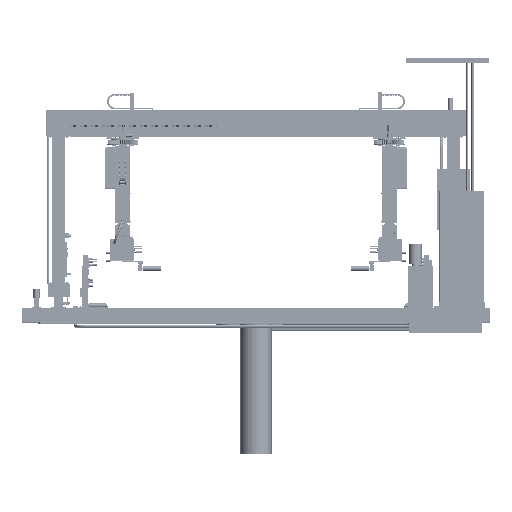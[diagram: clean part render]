
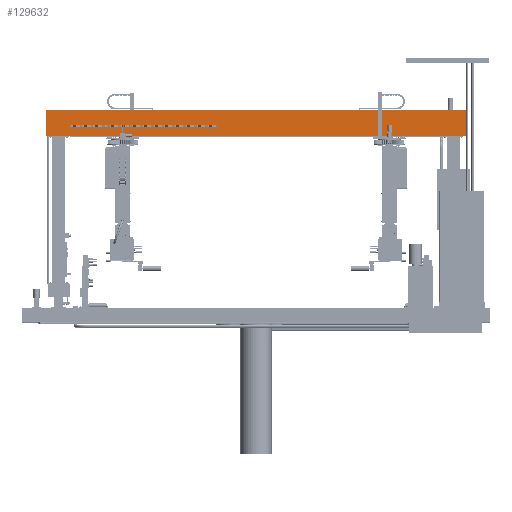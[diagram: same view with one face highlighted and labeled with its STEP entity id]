
A CAD part, top view. The second image highlights one B-rep face of the part: STEP entity #129632.
In plain terms, the highlighted planar face has unit normal (0, 0, 1).
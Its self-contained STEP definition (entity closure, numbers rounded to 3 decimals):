
#128953 = VERTEX_POINT('',#128954);
#128954 = CARTESIAN_POINT('',(-3770.,3100.,170.));
#128961 = PLANE('',#128962);
#128962 = AXIS2_PLACEMENT_3D('',#128963,#128964,#128965);
#128963 = CARTESIAN_POINT('',(-3770.,3100.,-170.));
#128964 = DIRECTION('',(1.,0.,0.));
#128965 = DIRECTION('',(0.,0.,1.));
#128973 = PLANE('',#128974);
#128974 = AXIS2_PLACEMENT_3D('',#128975,#128976,#128977);
#128975 = CARTESIAN_POINT('',(-3770.,3100.,-170.));
#128976 = DIRECTION('',(0.,1.,0.));
#128977 = DIRECTION('',(0.,0.,1.));
#129014 = VERTEX_POINT('',#129015);
#129015 = CARTESIAN_POINT('',(-3770.,3560.,170.));
#129029 = PLANE('',#129030);
#129030 = AXIS2_PLACEMENT_3D('',#129031,#129032,#129033);
#129031 = CARTESIAN_POINT('',(-3770.,3560.,-170.));
#129032 = DIRECTION('',(0.,1.,0.));
#129033 = DIRECTION('',(0.,0.,1.));
#129041 = EDGE_CURVE('',#128953,#129014,#129042,.T.);
#129042 = SURFACE_CURVE('',#129043,(#129047,#129054),.PCURVE_S1.);
#129043 = LINE('',#129044,#129045);
#129044 = CARTESIAN_POINT('',(-3770.,3100.,170.));
#129045 = VECTOR('',#129046,1.);
#129046 = DIRECTION('',(0.,1.,0.));
#129047 = PCURVE('',#128961,#129048);
#129048 = DEFINITIONAL_REPRESENTATION('',(#129049),#129053);
#129049 = LINE('',#129050,#129051);
#129050 = CARTESIAN_POINT('',(340.,0.));
#129051 = VECTOR('',#129052,1.);
#129052 = DIRECTION('',(0.,-1.));
#129053 = ( GEOMETRIC_REPRESENTATION_CONTEXT(2) 
PARAMETRIC_REPRESENTATION_CONTEXT() REPRESENTATION_CONTEXT('2D SPACE',''
  ) );
#129054 = PCURVE('',#129055,#129060);
#129055 = PLANE('',#129056);
#129056 = AXIS2_PLACEMENT_3D('',#129057,#129058,#129059);
#129057 = CARTESIAN_POINT('',(-3770.,3100.,170.));
#129058 = DIRECTION('',(0.,0.,1.));
#129059 = DIRECTION('',(1.,0.,0.));
#129060 = DEFINITIONAL_REPRESENTATION('',(#129061),#129065);
#129061 = LINE('',#129062,#129063);
#129062 = CARTESIAN_POINT('',(0.,0.));
#129063 = VECTOR('',#129064,1.);
#129064 = DIRECTION('',(0.,1.));
#129065 = ( GEOMETRIC_REPRESENTATION_CONTEXT(2) 
PARAMETRIC_REPRESENTATION_CONTEXT() REPRESENTATION_CONTEXT('2D SPACE',''
  ) );
#129094 = EDGE_CURVE('',#128953,#129095,#129097,.T.);
#129095 = VERTEX_POINT('',#129096);
#129096 = CARTESIAN_POINT('',(3770.,3100.,170.));
#129097 = SURFACE_CURVE('',#129098,(#129102,#129109),.PCURVE_S1.);
#129098 = LINE('',#129099,#129100);
#129099 = CARTESIAN_POINT('',(-3770.,3100.,170.));
#129100 = VECTOR('',#129101,1.);
#129101 = DIRECTION('',(1.,0.,0.));
#129102 = PCURVE('',#128973,#129103);
#129103 = DEFINITIONAL_REPRESENTATION('',(#129104),#129108);
#129104 = LINE('',#129105,#129106);
#129105 = CARTESIAN_POINT('',(340.,0.));
#129106 = VECTOR('',#129107,1.);
#129107 = DIRECTION('',(0.,1.));
#129108 = ( GEOMETRIC_REPRESENTATION_CONTEXT(2) 
PARAMETRIC_REPRESENTATION_CONTEXT() REPRESENTATION_CONTEXT('2D SPACE',''
  ) );
#129109 = PCURVE('',#129055,#129110);
#129110 = DEFINITIONAL_REPRESENTATION('',(#129111),#129115);
#129111 = LINE('',#129112,#129113);
#129112 = CARTESIAN_POINT('',(0.,0.));
#129113 = VECTOR('',#129114,1.);
#129114 = DIRECTION('',(1.,0.));
#129115 = ( GEOMETRIC_REPRESENTATION_CONTEXT(2) 
PARAMETRIC_REPRESENTATION_CONTEXT() REPRESENTATION_CONTEXT('2D SPACE',''
  ) );
#129131 = PLANE('',#129132);
#129132 = AXIS2_PLACEMENT_3D('',#129133,#129134,#129135);
#129133 = CARTESIAN_POINT('',(3770.,3100.,-170.));
#129134 = DIRECTION('',(1.,0.,0.));
#129135 = DIRECTION('',(0.,0.,1.));
#129632 = ADVANCED_FACE('',(#129633),#129055,.T.);
#129633 = FACE_BOUND('',#129634,.T.);
#129634 = EDGE_LOOP('',(#129635,#129636,#129637,#129660));
#129635 = ORIENTED_EDGE('',*,*,#129041,.F.);
#129636 = ORIENTED_EDGE('',*,*,#129094,.T.);
#129637 = ORIENTED_EDGE('',*,*,#129638,.T.);
#129638 = EDGE_CURVE('',#129095,#129639,#129641,.T.);
#129639 = VERTEX_POINT('',#129640);
#129640 = CARTESIAN_POINT('',(3770.,3560.,170.));
#129641 = SURFACE_CURVE('',#129642,(#129646,#129653),.PCURVE_S1.);
#129642 = LINE('',#129643,#129644);
#129643 = CARTESIAN_POINT('',(3770.,3100.,170.));
#129644 = VECTOR('',#129645,1.);
#129645 = DIRECTION('',(0.,1.,0.));
#129646 = PCURVE('',#129055,#129647);
#129647 = DEFINITIONAL_REPRESENTATION('',(#129648),#129652);
#129648 = LINE('',#129649,#129650);
#129649 = CARTESIAN_POINT('',(7540.,0.));
#129650 = VECTOR('',#129651,1.);
#129651 = DIRECTION('',(0.,1.));
#129652 = ( GEOMETRIC_REPRESENTATION_CONTEXT(2) 
PARAMETRIC_REPRESENTATION_CONTEXT() REPRESENTATION_CONTEXT('2D SPACE',''
  ) );
#129653 = PCURVE('',#129131,#129654);
#129654 = DEFINITIONAL_REPRESENTATION('',(#129655),#129659);
#129655 = LINE('',#129656,#129657);
#129656 = CARTESIAN_POINT('',(340.,0.));
#129657 = VECTOR('',#129658,1.);
#129658 = DIRECTION('',(0.,-1.));
#129659 = ( GEOMETRIC_REPRESENTATION_CONTEXT(2) 
PARAMETRIC_REPRESENTATION_CONTEXT() REPRESENTATION_CONTEXT('2D SPACE',''
  ) );
#129660 = ORIENTED_EDGE('',*,*,#129661,.F.);
#129661 = EDGE_CURVE('',#129014,#129639,#129662,.T.);
#129662 = SURFACE_CURVE('',#129663,(#129667,#129674),.PCURVE_S1.);
#129663 = LINE('',#129664,#129665);
#129664 = CARTESIAN_POINT('',(-3770.,3560.,170.));
#129665 = VECTOR('',#129666,1.);
#129666 = DIRECTION('',(1.,0.,0.));
#129667 = PCURVE('',#129055,#129668);
#129668 = DEFINITIONAL_REPRESENTATION('',(#129669),#129673);
#129669 = LINE('',#129670,#129671);
#129670 = CARTESIAN_POINT('',(0.,460.));
#129671 = VECTOR('',#129672,1.);
#129672 = DIRECTION('',(1.,0.));
#129673 = ( GEOMETRIC_REPRESENTATION_CONTEXT(2) 
PARAMETRIC_REPRESENTATION_CONTEXT() REPRESENTATION_CONTEXT('2D SPACE',''
  ) );
#129674 = PCURVE('',#129029,#129675);
#129675 = DEFINITIONAL_REPRESENTATION('',(#129676),#129680);
#129676 = LINE('',#129677,#129678);
#129677 = CARTESIAN_POINT('',(340.,0.));
#129678 = VECTOR('',#129679,1.);
#129679 = DIRECTION('',(0.,1.));
#129680 = ( GEOMETRIC_REPRESENTATION_CONTEXT(2) 
PARAMETRIC_REPRESENTATION_CONTEXT() REPRESENTATION_CONTEXT('2D SPACE',''
  ) );
